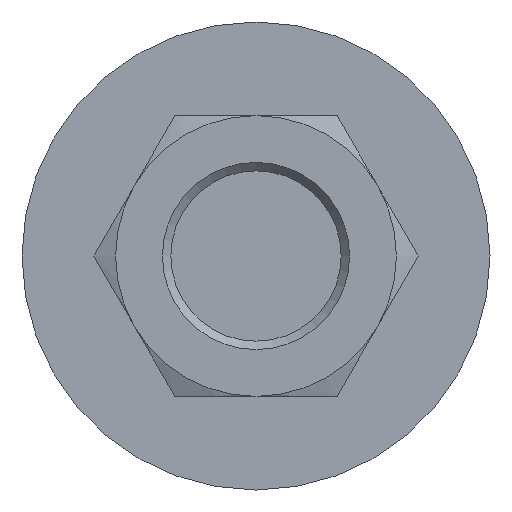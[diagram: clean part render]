
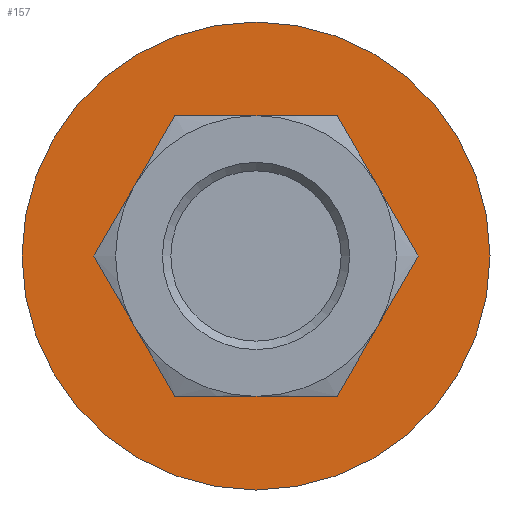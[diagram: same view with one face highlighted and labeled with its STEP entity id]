
A CAD part, left-side view. The second image highlights one B-rep face of the part: STEP entity #157.
In plain terms, the highlighted planar face has unit normal (-1, 0, 0).
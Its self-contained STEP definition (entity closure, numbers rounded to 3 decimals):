
#157 = ADVANCED_FACE( '', ( #350, #351 ), #352, .F. );
#350 = FACE_OUTER_BOUND( '', #579, .T. );
#351 = FACE_BOUND( '', #580, .T. );
#352 = PLANE( '', #581 );
#579 = EDGE_LOOP( '', ( #956 ) );
#580 = EDGE_LOOP( '', ( #957 ) );
#581 = AXIS2_PLACEMENT_3D( '', #958, #959, #960 );
#956 = ORIENTED_EDGE( '', *, *, #1376, .F. );
#957 = ORIENTED_EDGE( '', *, *, #1273, .T. );
#958 = CARTESIAN_POINT( '', ( 13., 13.5, 0. ) );
#959 = DIRECTION( '', ( 1., 0., 0. ) );
#960 = DIRECTION( '', ( 0., 0., -1. ) );
#1273 = EDGE_CURVE( '', #1495, #1495, #1496, .T. );
#1376 = EDGE_CURVE( '', #1649, #1649, #1650, .T. );
#1495 = VERTEX_POINT( '', #1818 );
#1496 = CIRCLE( '', #1819, 13.5 );
#1649 = VERTEX_POINT( '', #2191 );
#1650 = CIRCLE( '', #2192, 22.5 );
#1818 = CARTESIAN_POINT( '', ( 13., 0., -13.5 ) );
#1819 = AXIS2_PLACEMENT_3D( '', #2406, #2407, #2408 );
#2191 = CARTESIAN_POINT( '', ( 13., 0., -22.5 ) );
#2192 = AXIS2_PLACEMENT_3D( '', #2493, #2494, #2495 );
#2406 = CARTESIAN_POINT( '', ( 13., 0., 0. ) );
#2407 = DIRECTION( '', ( 1., 0., 0. ) );
#2408 = DIRECTION( '', ( 0., 0., -1. ) );
#2493 = CARTESIAN_POINT( '', ( 13., 0., 0. ) );
#2494 = DIRECTION( '', ( 1., 0., 0. ) );
#2495 = DIRECTION( '', ( 0., 0., -1. ) );
